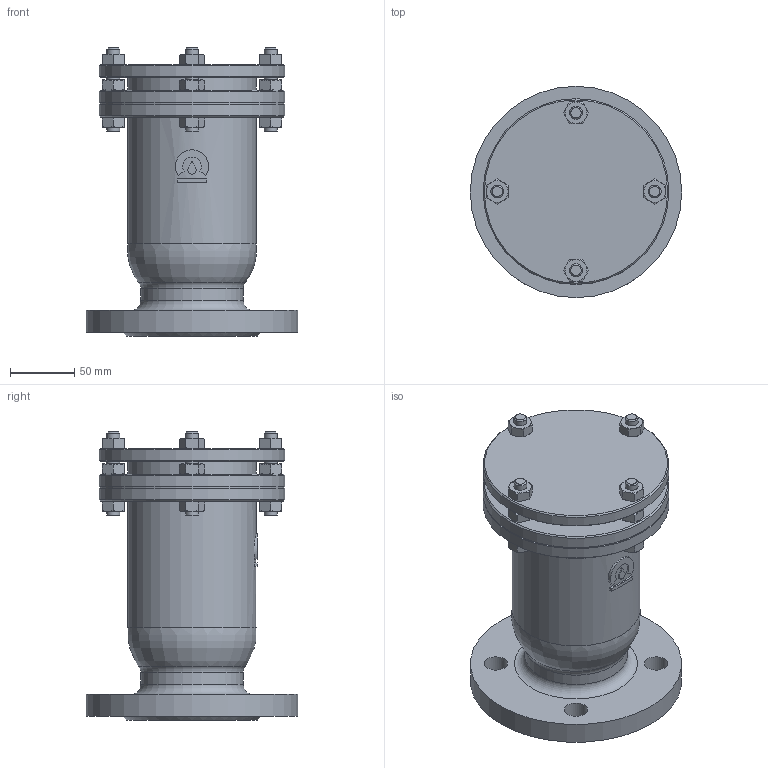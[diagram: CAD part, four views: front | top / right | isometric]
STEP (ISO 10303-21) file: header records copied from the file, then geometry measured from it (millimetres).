
FILE_DESCRIPTION(('STEP AP203'), '1');
FILE_NAME('Òèï A10F - Âîçäóõîîòâîä÷èê îäíîêàìåðíûé DN50', '', ('UNSPECIFIED'), ('UNSPECIFIED'), 'ASCON STEP Converter 1.6', 'ASCON Math Kernel', '');
FILE_SCHEMA(('CONFIG_CONTROL_DESIGN'));
Length unit declared in the file: millimetre
Products named in the file (1): Тип A10F
Bounding box: 165 x 165 x 225 mm (x, y, z)
Volume: 1765187.8 mm3; surface area: 187395 mm2
Topology: 1 solids, 1 shells, 300 faces, 657 edges, 386 vertices
Faces by surface type: cone 153, plane 112, cylinder 32, torus 3
Full cylindrical faces by diameter (mm): 10 x12, 18 x4, 50 x1, 80 x1, 100 x2, 143 x1, 145 x3, 165 x1
Entity records: 17026 total; most frequent: CARTESIAN_POINT 8593, ORIENTED_EDGE 1240, DIRECTION 1145, EDGE_CURVE 620, AXIS2_PLACEMENT_3D 525, VERTEX_POINT 386, EDGE_LOOP 380, FACE_BOUND 311
